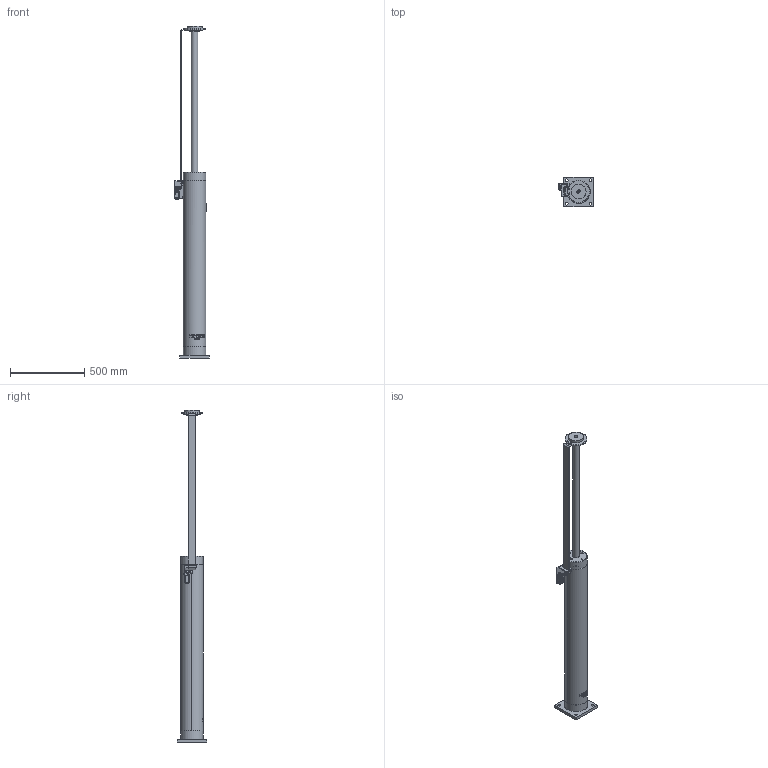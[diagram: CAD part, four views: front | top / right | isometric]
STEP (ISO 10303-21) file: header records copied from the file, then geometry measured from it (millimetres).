
FILE_DESCRIPTION(/* description */ ('Diese Zeichnung ist Eigentum der Henning GmbH & Co. KG und darf nur mit Genehmigung an dritte weitergegeben werden'),/* implementation_level */ '2;1');
FILE_NAME(/* name */ '\\dc1\Dokumentenverwaltung\Fertigung\Liftpuffer\97400000-97699999-LIFTPUFFER CAD\3-D Zeichnungen\LP 50-950\LP50-950_Kunde.stp',/* time_stamp */ '2018-07-26T15:44:44+02:00',/* author */ ('Baecker'),/* organization */ ('Henning GmbH & Co. KG'),/* preprocessor_version */ 'ST-DEVELOPER v17',/* originating_system */ 'Autodesk Inventor 2018',/* authorisation */ '');
FILE_SCHEMA (('AUTOMOTIVE_DESIGN { 1 0 10303 214 3 1 1 }'));
Products named in the file (1): LP50-950_Kunde
Bounding box: 235.2 x 200 x 2235 mm (x, y, z)
Volume: 25017261.4 mm3; surface area: 1106338.2 mm2
Topology: 3 solids, 6 shells, 3090 faces, 8705 edges, 5710 vertices
Faces by surface type: plane 1816, cylinder 680, bspline 393, cone 133, torus 50, sphere 18
Full cylindrical faces by diameter (mm): 1.7 x1, 2.15 x2, 2.5 x2, 2.97 x1, 3.2 x1, 3.5 x1, 3.95 x2, 4 x7, 4.1 x1, 4.3 x2, 4.5 x4, 4.95 x1, 5.05 x1, 6 x4, 6.6 x1, 6.917 x1, 7 x3, 8 x1, 8.3 x2, 8.5 x1, 9 x2, 9.3 x1, 9.7 x1, 10 x7, 10.2 x1, 11 x3, 11.05 x1, 11.2 x1, 11.445 x1, 13 x2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
Entity records: 133976 total; most frequent: CARTESIAN_POINT 52621, ORIENTED_EDGE 17390, DIRECTION 15280, EDGE_CURVE 8695, VERTEX_POINT 5710, AXIS2_PLACEMENT_3D 5094, LINE 5092, VECTOR 5092
